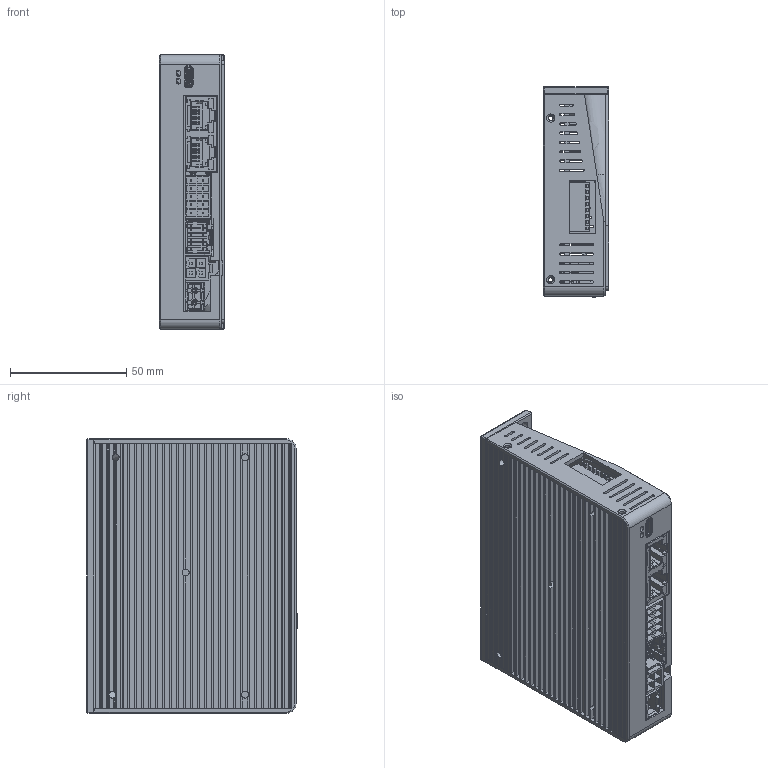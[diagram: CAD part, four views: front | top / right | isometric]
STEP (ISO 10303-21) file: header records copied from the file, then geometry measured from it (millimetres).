
FILE_DESCRIPTION((''),'2;1');
FILE_NAME('CL3C_EC507_ASM_14_ASM','2022-09-02T',('Administrator'),(''),'PRO/ENGINEER BY PARAMETRIC TECHNOLOGY CORPORATION, 2010280','PRO/ENGINEER BY PARAMETRIC TECHNOLOGY CORPORATION, 2010280','');
FILE_SCHEMA(('CONFIG_CONTROL_DESIGN'));
Products named in the file (28): PCB__2; DIP_SWITCH_8PIN_VIC2_1; MANIFOLD_SOLID_BREP_66795; MANIFOLD_SOLID_BREP_66883; FCI_USB_ANY_1_ASM; FUS606_REF_1; C-1932389-1-3-3D__1; MANIFOLD_SOLID_BREP_118100; MANIFOLD_SOLID_BREP_118347; MANIFOLD_SOLID_BREP_118594; MANIFOLD_SOLID_BREP_118841; MANIFOLD_SOLID_BREP_119088; MANIFOLD_SOLID_BREP_119335; MANIFOLD_SOLID_BREP_119582; MANIFOLD_SOLID_BREP_119829; MANIFOLD_SOLID_BREP_120076; MANIFOLD_SOLID_BREP_120323; MANIFOLD_SOLID_BREP_120570; 15EDGRHB_THR_3_5_10__1_ASM; 559591230_1; 00_STYLE_04PIN__1; 5PIN_MINIUSB_SOCKET_1_1_1; PCB__ASM_4_ASM; SCREW__ASM_1_ASM; CONNECTOR_5MMCLOSED2PIN_MALE_1; 1_4; 2_11; CL3C_EC507_ASM_14_ASM
Assembly tree (28 placements, depth 4):
  CL3C_EC507_ASM_14_ASM
    PCB__ASM_4_ASM
      PCB__2
      DIP_SWITCH_8PIN_VIC2_1  x2
      FCI_USB_ANY_1_ASM
        MANIFOLD_SOLID_BREP_66795
        MANIFOLD_SOLID_BREP_66883
      FUS606_REF_1
      C-1932389-1-3-3D__1
      15EDGRHB_THR_3_5_10__1_ASM
        MANIFOLD_SOLID_BREP_118100
        MANIFOLD_SOLID_BREP_118347
        MANIFOLD_SOLID_BREP_118594
        MANIFOLD_SOLID_BREP_118841
        MANIFOLD_SOLID_BREP_119088
        MANIFOLD_SOLID_BREP_119335
        MANIFOLD_SOLID_BREP_119582
        MANIFOLD_SOLID_BREP_119829
        MANIFOLD_SOLID_BREP_120076
        MANIFOLD_SOLID_BREP_120323
        MANIFOLD_SOLID_BREP_120570
      559591230_1
      00_STYLE_04PIN__1
      5PIN_MINIUSB_SOCKET_1_1_1
    SCREW__ASM_1_ASM
    CONNECTOR_5MMCLOSED2PIN_MALE_1
    1_4
    2_11
Bounding box: 28 x 90.47 x 118 mm (x, y, z)
Volume: 102147 mm3; surface area: 108581 mm2
Topology: 24 solids, 24 shells, 4006 faces, 11201 edges, 7358 vertices
Faces by surface type: plane 3320, cylinder 608, cone 50, bspline 14, sphere 12, torus 2
Entity records: 122356 total; most frequent: CARTESIAN_POINT 23291, ORIENTED_EDGE 21180, DIRECTION 19327, EDGE_CURVE 10590, VECTOR 8997, LINE 8997, VERTEX_POINT 6964, AXIS2_PLACEMENT_3D 5165
